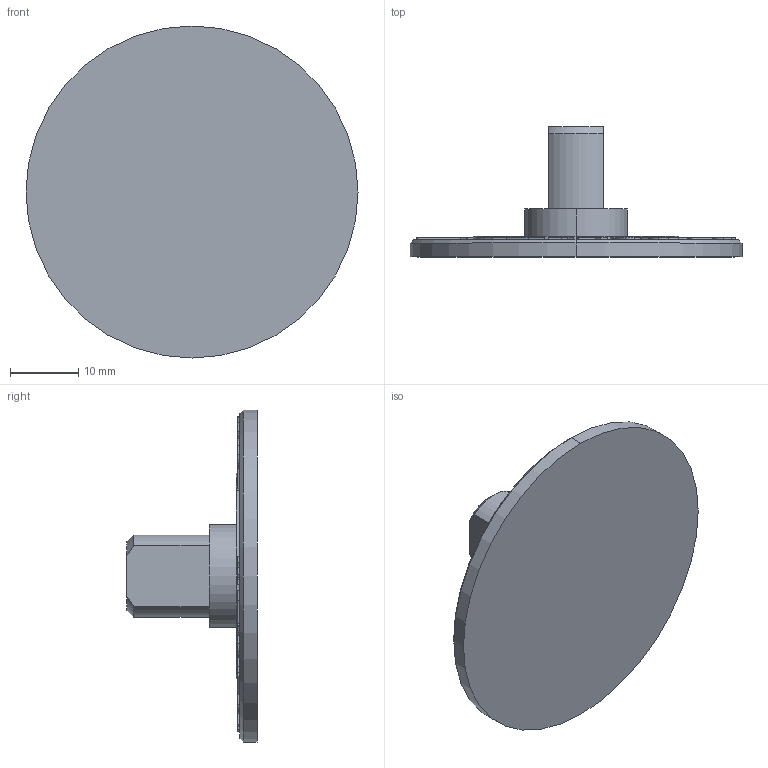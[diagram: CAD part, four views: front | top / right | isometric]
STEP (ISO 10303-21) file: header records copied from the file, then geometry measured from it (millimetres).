
FILE_DESCRIPTION (( 'STEP AP203' ), '1' );
FILE_NAME ('Žæ•t‘¤BH486.STEP', '2022-05-30T00:46:25', ( '' ), ( '' ), 'SwSTEP 2.0', 'SolidWorks 2017', '' );
FILE_SCHEMA (( 'CONFIG_CONTROL_DESIGN' ));
Length unit declared in the file: millimetre
Products named in the file (1): 取付側BH486
Bounding box: 48.5 x 19 x 48.5 mm (x, y, z)
Volume: 6777 mm3; surface area: 4823.1 mm2
Topology: 1 solids, 1 shells, 282 faces, 756 edges, 503 vertices
Faces by surface type: plane 158, bspline 110, cylinder 9, cone 5
Entity records: 13036 total; most frequent: CARTESIAN_POINT 6640, ORIENTED_EDGE 1512, DIRECTION 901, EDGE_CURVE 756, LINE 509, VECTOR 509, VERTEX_POINT 503, EDGE_LOOP 309
